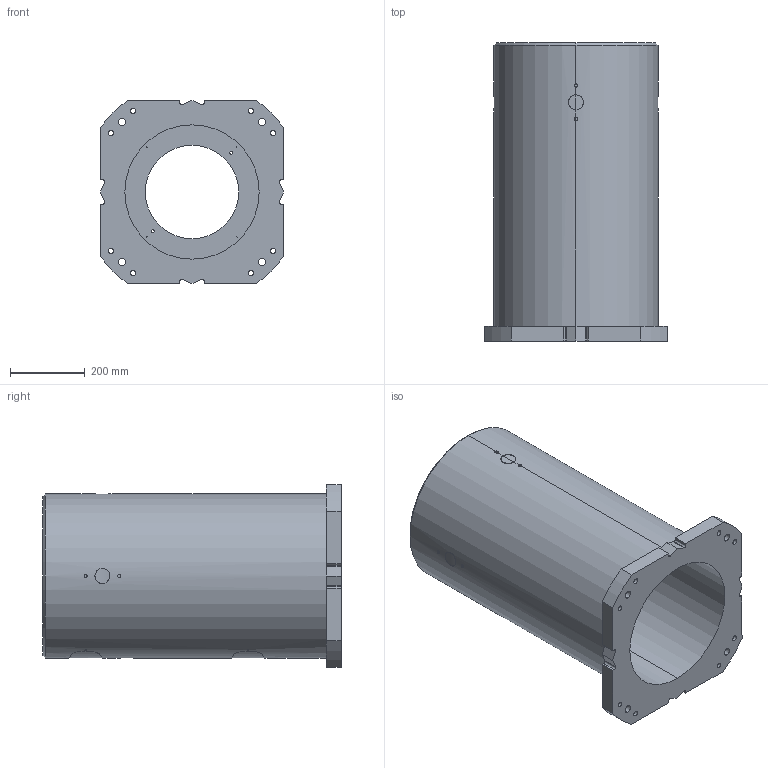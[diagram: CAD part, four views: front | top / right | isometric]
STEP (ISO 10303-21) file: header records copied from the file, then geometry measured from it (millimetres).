
FILE_DESCRIPTION (( 'STEP AP214' ), '1' );
FILE_NAME ('G-800.STEP', '2025-12-05T13:15:26', ( '' ), ( '' ), 'SwSTEP 2.0', 'SolidWorks 2022', '' );
FILE_SCHEMA (( 'AUTOMOTIVE_DESIGN' ));
Length unit declared in the file: millimetre
Products named in the file (1): G-800
Bounding box: 490 x 800 x 490 mm (x, y, z)
Volume: 45068920.1 mm3; surface area: 2399140.4 mm2
Topology: 1 solids, 1 shells, 175 faces, 473 edges, 308 vertices
Faces by surface type: cylinder 113, plane 28, bspline 24, cone 10
Entity records: 11310 total; most frequent: CARTESIAN_POINT 6415, ORIENTED_EDGE 930, DIRECTION 741, EDGE_CURVE 465, VERTEX_POINT 308, AXIS2_PLACEMENT_3D 278, EDGE_LOOP 221, VECTOR 185
